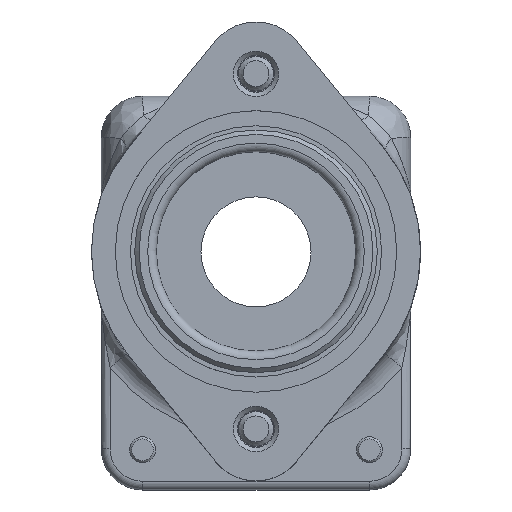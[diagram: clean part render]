
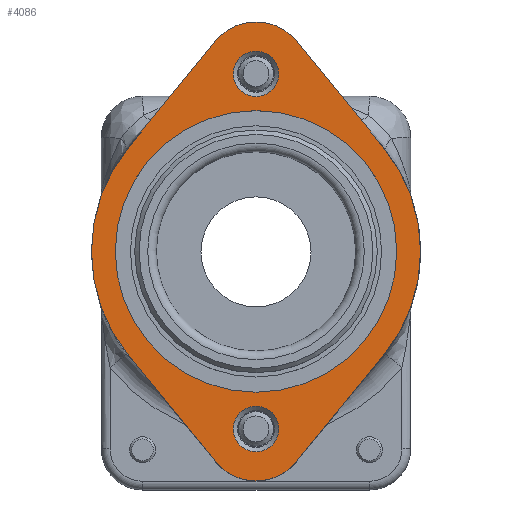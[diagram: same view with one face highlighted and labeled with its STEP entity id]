
A CAD part, top view. The second image highlights one B-rep face of the part: STEP entity #4086.
In plain terms, the highlighted planar face has unit normal (0, 0, 1).
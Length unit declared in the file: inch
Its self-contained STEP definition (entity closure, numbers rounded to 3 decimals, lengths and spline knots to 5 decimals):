
#101=FACE_BOUND('',#754,.T.);
#102=FACE_BOUND('',#755,.T.);
#103=FACE_BOUND('',#756,.T.);
#333=PLANE('',#4472);
#491=FACE_OUTER_BOUND('',#753,.T.);
#753=EDGE_LOOP('',(#3143,#3144,#3145,#3146,#3147,#3148,#3149,#3150,#3151));
#754=EDGE_LOOP('',(#3152));
#755=EDGE_LOOP('',(#3153));
#756=EDGE_LOOP('',(#3154));
#1018=LINE('',#6697,#1243);
#1019=LINE('',#6701,#1244);
#1020=LINE('',#6707,#1245);
#1021=LINE('',#6711,#1246);
#1243=VECTOR('',#5340,0.3937);
#1244=VECTOR('',#5343,0.3937);
#1245=VECTOR('',#5348,0.3937);
#1246=VECTOR('',#5351,0.3937);
#1438=CIRCLE('',#4469,1.27953);
#1440=CIRCLE('',#4473,0.47244);
#1441=CIRCLE('',#4474,1.49606);
#1442=CIRCLE('',#4475,1.49606);
#1443=CIRCLE('',#4476,0.47244);
#1444=CIRCLE('',#4477,1.49606);
#1445=CIRCLE('',#4478,0.20669);
#1446=CIRCLE('',#4479,0.20669);
#1781=VERTEX_POINT('',#6688);
#1783=VERTEX_POINT('',#6695);
#1784=VERTEX_POINT('',#6696);
#1785=VERTEX_POINT('',#6698);
#1786=VERTEX_POINT('',#6700);
#1787=VERTEX_POINT('',#6702);
#1788=VERTEX_POINT('',#6704);
#1789=VERTEX_POINT('',#6706);
#1790=VERTEX_POINT('',#6708);
#1791=VERTEX_POINT('',#6710);
#1792=VERTEX_POINT('',#6713);
#1793=VERTEX_POINT('',#6715);
#2253=EDGE_CURVE('',#1781,#1781,#1438,.T.);
#2256=EDGE_CURVE('',#1783,#1784,#1018,.T.);
#2257=EDGE_CURVE('',#1784,#1785,#1440,.T.);
#2258=EDGE_CURVE('',#1785,#1786,#1019,.T.);
#2259=EDGE_CURVE('',#1787,#1786,#1441,.T.);
#2260=EDGE_CURVE('',#1788,#1787,#1442,.T.);
#2261=EDGE_CURVE('',#1788,#1789,#1020,.T.);
#2262=EDGE_CURVE('',#1789,#1790,#1443,.T.);
#2263=EDGE_CURVE('',#1790,#1791,#1021,.T.);
#2264=EDGE_CURVE('',#1783,#1791,#1444,.T.);
#2265=EDGE_CURVE('',#1792,#1792,#1445,.T.);
#2266=EDGE_CURVE('',#1793,#1793,#1446,.T.);
#3143=ORIENTED_EDGE('',*,*,#2256,.T.);
#3144=ORIENTED_EDGE('',*,*,#2257,.T.);
#3145=ORIENTED_EDGE('',*,*,#2258,.T.);
#3146=ORIENTED_EDGE('',*,*,#2259,.F.);
#3147=ORIENTED_EDGE('',*,*,#2260,.F.);
#3148=ORIENTED_EDGE('',*,*,#2261,.T.);
#3149=ORIENTED_EDGE('',*,*,#2262,.T.);
#3150=ORIENTED_EDGE('',*,*,#2263,.T.);
#3151=ORIENTED_EDGE('',*,*,#2264,.F.);
#3152=ORIENTED_EDGE('',*,*,#2265,.F.);
#3153=ORIENTED_EDGE('',*,*,#2266,.F.);
#3154=ORIENTED_EDGE('',*,*,#2253,.T.);
#4086=ADVANCED_FACE('',(#491,#101,#102,#103),#333,.F.);
#4469=AXIS2_PLACEMENT_3D('',#6689,#5331,#5332);
#4472=AXIS2_PLACEMENT_3D('',#6694,#5338,#5339);
#4473=AXIS2_PLACEMENT_3D('',#6699,#5341,#5342);
#4474=AXIS2_PLACEMENT_3D('',#6703,#5344,#5345);
#4475=AXIS2_PLACEMENT_3D('',#6705,#5346,#5347);
#4476=AXIS2_PLACEMENT_3D('',#6709,#5349,#5350);
#4477=AXIS2_PLACEMENT_3D('',#6712,#5352,#5353);
#4478=AXIS2_PLACEMENT_3D('',#6714,#5354,#5355);
#4479=AXIS2_PLACEMENT_3D('',#6716,#5356,#5357);
#5331=DIRECTION('center_axis',(0.,0.,-1.));
#5332=DIRECTION('ref_axis',(-1.,0.,0.));
#5338=DIRECTION('center_axis',(0.,0.,-1.));
#5339=DIRECTION('ref_axis',(-1.,0.,0.));
#5340=DIRECTION('',(0.634,-0.773,0.));
#5341=DIRECTION('center_axis',(0.,0.,1.));
#5342=DIRECTION('ref_axis',(-0.773,-0.634,0.));
#5343=DIRECTION('',(0.634,0.773,0.));
#5344=DIRECTION('center_axis',(0.,0.,-1.));
#5345=DIRECTION('ref_axis',(-1.,0.,0.));
#5346=DIRECTION('center_axis',(0.,0.,-1.));
#5347=DIRECTION('ref_axis',(-1.,0.,0.));
#5348=DIRECTION('',(-0.634,0.773,0.));
#5349=DIRECTION('center_axis',(0.,0.,1.));
#5350=DIRECTION('ref_axis',(0.773,0.634,0.));
#5351=DIRECTION('',(-0.634,-0.773,0.));
#5352=DIRECTION('center_axis',(0.,0.,-1.));
#5353=DIRECTION('ref_axis',(-1.,0.,0.));
#5354=DIRECTION('center_axis',(0.,0.,1.));
#5355=DIRECTION('ref_axis',(-1.,0.,0.));
#5356=DIRECTION('center_axis',(0.,0.,1.));
#5357=DIRECTION('ref_axis',(-1.,0.,0.));
#6688=CARTESIAN_POINT('',(1.27953,0.,2.51969));
#6689=CARTESIAN_POINT('Origin',(0.,0.,2.51969));
#6694=CARTESIAN_POINT('Origin',(0.,0.,2.51969));
#6695=CARTESIAN_POINT('',(-1.15678,-0.94872,2.51969));
#6696=CARTESIAN_POINT('',(-0.3653,-1.91377,2.51969));
#6697=CARTESIAN_POINT('',(-1.15678,-0.94872,2.51969));
#6698=CARTESIAN_POINT('',(0.3653,-1.91377,2.51969));
#6699=CARTESIAN_POINT('Origin',(0.,-1.61417,
2.51969));
#6700=CARTESIAN_POINT('',(1.15678,-0.94872,2.51969));
#6701=CARTESIAN_POINT('',(0.3653,-1.91377,2.51969));
#6702=CARTESIAN_POINT('',(1.49606,0.,2.51969));
#6703=CARTESIAN_POINT('Origin',(0.,0.,2.51969));
#6704=CARTESIAN_POINT('',(1.15678,0.94872,2.51969));
#6705=CARTESIAN_POINT('Origin',(0.,0.,2.51969));
#6706=CARTESIAN_POINT('',(0.3653,1.91377,2.51969));
#6707=CARTESIAN_POINT('',(1.15678,0.94872,2.51969));
#6708=CARTESIAN_POINT('',(-0.3653,1.91377,2.51969));
#6709=CARTESIAN_POINT('Origin',(0.,1.61417,2.51969));
#6710=CARTESIAN_POINT('',(-1.15678,0.94872,2.51969));
#6711=CARTESIAN_POINT('',(-0.3653,1.91377,2.51969));
#6712=CARTESIAN_POINT('Origin',(0.,0.,2.51969));
#6713=CARTESIAN_POINT('',(0.20669,1.61417,2.51969));
#6714=CARTESIAN_POINT('Origin',(0.,1.61417,2.51969));
#6715=CARTESIAN_POINT('',(0.20669,-1.61417,2.51969));
#6716=CARTESIAN_POINT('Origin',(0.,-1.61417,2.51969));
